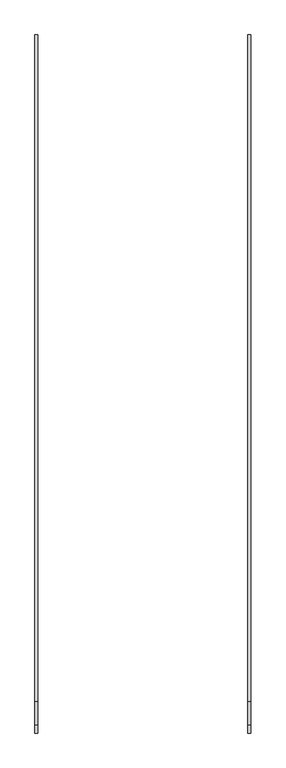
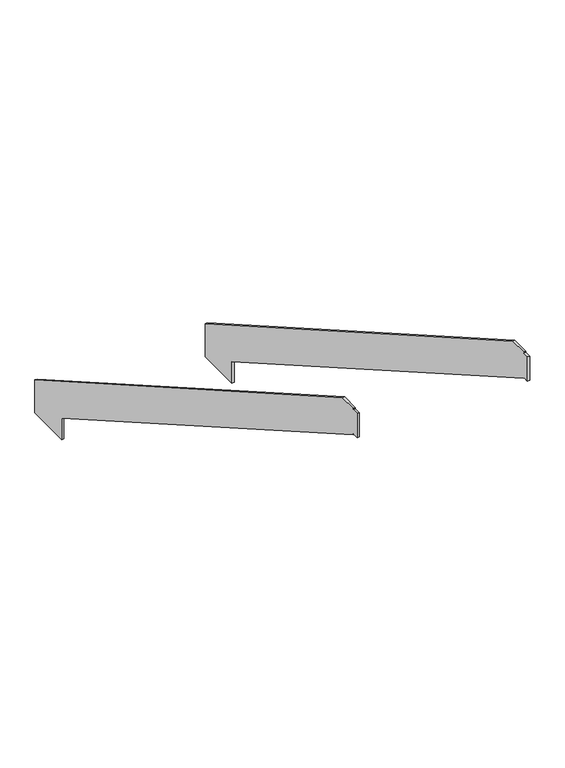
"""IFC4 building model written with IfcOpenShell, lengths in millimetres: beam geometry, limon escalier : limon escalier."""

import ifcopenshell
import ifcopenshell.guid

model = None  # the IFC model being written
_history = None  # IfcOwnerHistory: only IFC2X3 demands one
_inside = {}  # id of a spatial element -> (the spatial element, [elements in it])
_under = {}  # id of a project, library or spatial element -> (it, [spatial elements below it])
_declared = {}  # id of a project -> (the project, [libraries it declares])
_typed = {}  # id of a type object -> (the type object, [elements of that type])
_made_of = {}  # id of a material, layer set ... -> (it, [elements and type objects made of it])


def new_model(schema):
    """Start an empty IFC model of exactly this schema.

    Asked for "IFC4X3", IfcOpenShell would pick the latest addendum, in which some entities
    have other attributes; the version numbers below select the first issue.
    IFC2X3 requires an IfcOwnerHistory on every rooted entity: one is made here for all.
    """
    global model, _history
    if schema == "IFC4X3":
        model = ifcopenshell.file(schema_version=(4, 3, 0, 0))
    else:
        model = ifcopenshell.file(schema=schema)
    _inside.clear()
    _under.clear()
    _declared.clear()
    _typed.clear()
    _made_of.clear()
    _history = None
    if model.schema == "IFC2X3":
        org = make("IfcOrganization", Name="unknown")
        user = make(
            "IfcPersonAndOrganization",
            ThePerson=make("IfcPerson", FamilyName="unknown"),
            TheOrganization=org,
        )
        app = make(
            "IfcApplication",
            ApplicationDeveloper=org,
            Version="unknown",
            ApplicationFullName="unknown",
            ApplicationIdentifier="unknown",
        )
        _history = make(
            "IfcOwnerHistory",
            OwningUser=user,
            OwningApplication=app,
            ChangeAction="ADDED",
            CreationDate=0,
        )
    return model


def make(cls, **values):
    """One entity of the class cls with the attributes given. An attribute that is None is left unset."""
    return model.create_entity(
        cls, **{name: value for name, value in values.items() if value is not None}
    )


def rooted(cls, **values):
    """An entity with a GlobalId (a new one), such as an element, a storey or a relation."""
    return make(cls, GlobalId=ifcopenshell.guid.new(), OwnerHistory=_history, **values)


def si_unit(unit_type, name, prefix=None):
    """IfcSIUnit, for example si_unit("LENGTHUNIT", "METRE", prefix="MILLI")."""
    return make("IfcSIUnit", UnitType=unit_type, Prefix=prefix, Name=name)


def assignment(units):
    """IfcUnitAssignment: the units of a project."""
    return None if units is None else make("IfcUnitAssignment", Units=units)


def point(xyz):
    """IfcCartesianPoint."""
    return None if xyz is None else make("IfcCartesianPoint", Coordinates=xyz)


def direction(xyz):
    """IfcDirection."""
    return None if xyz is None else make("IfcDirection", DirectionRatios=xyz)


def frame(location, z_axis=None, x_axis=None):
    """IfcAxis2Placement3D, a coordinate frame: its origin and axes. An axis left out is left unset."""
    return make(
        "IfcAxis2Placement3D",
        Location=point(location),
        Axis=direction(z_axis),
        RefDirection=direction(x_axis),
    )


def origin():
    """The frame at (0, 0, 0) with its axes left unset."""
    return frame((0.0, 0.0, 0.0))


def place(relative_to, where):
    """IfcLocalPlacement: puts the frame where relative to a parent placement (None: the world)."""
    return make(
        "IfcLocalPlacement", PlacementRelTo=relative_to, RelativePlacement=where
    )


def context(
    kind, dimensions, precision=None, world=None, true_north=None, identifier=None
):
    """IfcGeometricRepresentationContext, for example the 3D "Model" context."""
    return make(
        "IfcGeometricRepresentationContext",
        ContextIdentifier=identifier,
        ContextType=kind,
        CoordinateSpaceDimension=dimensions,
        Precision=precision,
        WorldCoordinateSystem=world,
        TrueNorth=true_north,
    )


def project(units=None, contexts=None):
    """IfcProject with its units and contexts."""
    return rooted(
        "IfcProject",
        Name="project",
        RepresentationContexts=contexts,
        UnitsInContext=assignment(units),
    )


def spatial(cls, under=None, at=None, **own):
    """A site, building, storey or space (cls), placed at a placement, below another one or the project."""
    s = rooted(cls, ObjectPlacement=at, **own)
    if under is not None:
        _under.setdefault(under.id(), (under, []))[1].append(s)
    return s


def polyline(points):
    """IfcPolyline through the points."""
    return make("IfcPolyline", Points=[point(p) for p in points])


def outline(outer, holes=None, kind="AREA"):
    """IfcArbitraryClosedProfileDef: a profile drawn as a closed curve; with holes, ...WithVoids."""
    if holes is None:
        return make("IfcArbitraryClosedProfileDef", ProfileType=kind, OuterCurve=outer)
    return make(
        "IfcArbitraryProfileDefWithVoids",
        ProfileType=kind,
        OuterCurve=outer,
        InnerCurves=holes,
    )


def extrude(swept, where, along, depth):
    """IfcExtrudedAreaSolid: the profile swept, set in the frame where, extruded along a direction by depth."""
    return make(
        "IfcExtrudedAreaSolid",
        SweptArea=swept,
        Position=where,
        ExtrudedDirection=direction(along),
        Depth=depth,
    )


def shape(context_of_items, identifier, shape_type, items):
    """IfcShapeRepresentation: the items that make up one representation, for example the "Body"."""
    return make(
        "IfcShapeRepresentation",
        ContextOfItems=context_of_items,
        RepresentationIdentifier=identifier,
        RepresentationType=shape_type,
        Items=items,
    )


def source(mapping_origin, context_of_items, identifier, shape_type, items):
    """IfcRepresentationMap: a shape defined once, which mapped items show again and again."""
    return make(
        "IfcRepresentationMap",
        MappingOrigin=mapping_origin,
        MappedRepresentation=shape(context_of_items, identifier, shape_type, items),
    )


def transform(
    local_origin,
    x_axis=None,
    y_axis=None,
    z_axis=None,
    scale=None,
    scale2=None,
    scale3=None,
    uniform=True,
):
    """IfcCartesianTransformationOperator3D, or its non-uniform kind. x_axis, y_axis, z_axis: its Axis1, 2, 3."""
    if uniform:
        return make(
            "IfcCartesianTransformationOperator3D",
            Axis1=direction(x_axis),
            Axis2=direction(y_axis),
            LocalOrigin=point(local_origin),
            Scale=scale,
            Axis3=direction(z_axis),
        )
    return make(
        "IfcCartesianTransformationOperator3DnonUniform",
        Axis1=direction(x_axis),
        Axis2=direction(y_axis),
        LocalOrigin=point(local_origin),
        Scale=scale,
        Axis3=direction(z_axis),
        Scale2=scale2,
        Scale3=scale3,
    )


def mapped(mapping_source, mapping_target):
    """IfcMappedItem: shows the shape of a source again, moved by a transform."""
    return make(
        "IfcMappedItem", MappingSource=mapping_source, MappingTarget=mapping_target
    )


def made_of(thing, what):
    """Note that an element or type object is made of a material, layer set ...; save() writes the relation."""
    if what is not None:
        _made_of.setdefault(what.id(), (what, []))[1].append(thing)
    return thing


def element(
    cls,
    number,
    at=None,
    inside=None,
    cuts=None,
    type_object=None,
    material=None,
    context=None,
    identifier="Body",
    shape_type=None,
    held_by="IfcProductDefinitionShape",
    body=None,
    shapes=None,
    **own,
):
    """One element of the class cls, such as IfcWall. Its Tag is "e" and its number.

    at: its placement. inside: the storey or other place that contains it. cuts: it is an
    opening in that element (IfcRelVoidsElement). A single representation is given by context,
    identifier, shape_type and body (its items); several are given by shapes. held_by: the class
    of the entity that holds the representations. save() writes the other relations.
    """
    e = rooted(cls, Tag="e%d" % number, ObjectPlacement=at, **own)
    if body is not None:
        shapes = [shape(context, identifier, shape_type, body)]
    if shapes is not None:
        e.Representation = make(held_by, Representations=shapes)
    if inside is not None:
        _inside.setdefault(inside.id(), (inside, []))[1].append(e)
    if cuts is not None:
        rooted(
            "IfcRelVoidsElement", RelatingBuildingElement=cuts, RelatedOpeningElement=e
        )
    if type_object is not None:
        _typed.setdefault(type_object.id(), (type_object, []))[1].append(e)
    return made_of(e, material)


def aggregate(whole, parts):
    """IfcRelAggregates: a whole, such as a stair, and the parts it consists of."""
    return rooted("IfcRelAggregates", RelatingObject=whole, RelatedObjects=parts)


def save(model, path):
    """Write the relations noted so far, then the file.

    IfcRelAggregates (storeys below a building ...), IfcRelContainedInSpatialStructure (elements
    in a storey), IfcRelDefinesByType, IfcRelAssociatesMaterial and IfcRelDeclares: one each for
    every whole, place, type object, material and project.
    """
    for whole, parts in _under.values():
        aggregate(whole, parts)
    for where, things in _inside.values():
        rooted(
            "IfcRelContainedInSpatialStructure",
            RelatedElements=things,
            RelatingStructure=where,
        )
    for kind, things in _typed.values():
        rooted("IfcRelDefinesByType", RelatedObjects=things, RelatingType=kind)
    for what, things in _made_of.values():
        rooted("IfcRelAssociatesMaterial", RelatedObjects=things, RelatingMaterial=what)
    for by, libraries in _declared.values():
        rooted("IfcRelDeclares", RelatingContext=by, RelatedDefinitions=libraries)
    model.write(path)


def beam_a8fe730a(model_context):
    return source(origin(), model_context, "Body", "SweptSolid", [
        extrude(outline(polyline([(4945.4265057, 10.9383238), (1342.0685723, 2070.0), (1342.0685723, 2078.5), (1294.8685723, 2078.5), (1294.8685723, 2261.5), (1342.0685723, 2261.5), (1342.0685723, 2270.0), (1475.8040372, 2270.0), (5275.4265057, 98.7871608), (5275.4265057, -150.0), (4945.4265057, -150.0), (4945.4265057, 10.9383238)])), frame((10343.2466393, 0.0, 0.0), z_axis=(1.0, 0.0, 0.0), x_axis=(0.0, 1.0, 0.0)), (0.0, 0.0, 1.0), 15.0),
        extrude(outline(polyline([(4945.4265057, 10.9383238), (1342.0685723, 2070.0), (1342.0685723, 2078.5), (1294.8685723, 2078.5), (1294.8685723, 2261.5), (1342.0685723, 2261.5), (1342.0685723, 2270.0), (1475.8040372, 2270.0), (5275.4265057, 98.7871608), (5275.4265057, -150.0), (4945.4265057, -150.0), (4945.4265057, 10.9383238)])), frame((9128.2466393, 0.0, 0.0), z_axis=(1.0, 0.0, 0.0), x_axis=(0.0, 1.0, 0.0)), (0.0, 0.0, 1.0), 15.0),
    ])


if __name__ == "__main__":
    model = new_model("IFC4")
    model_context = context("Model", 3, world=origin())
    ifc_project = project(units=[si_unit("LENGTHUNIT", "METRE", prefix="MILLI")], contexts=[model_context])
    site = spatial("IfcSite", under=ifc_project)
    building = spatial("IfcBuilding", under=site)
    placement = place(None, origin())
    beam_shape = beam_a8fe730a(model_context)
    element("IfcBeam", 1, ObjectType="limon escalier : limon escalier", at=placement, inside=building, context=model_context, shape_type="MappedRepresentation", body=[
        mapped(beam_shape, transform((0.0, 0.0, 0.0), x_axis=(1.0, 0.0, 0.0), y_axis=(0.0, 1.0, 0.0), z_axis=(0.0, 0.0, 1.0))),
    ])
    save(model, "model.ifc")
